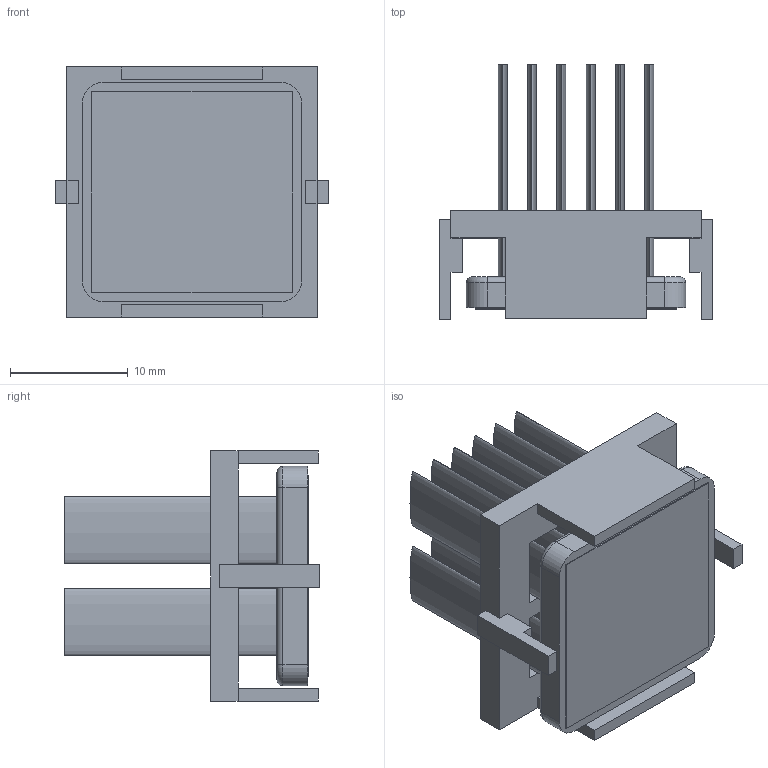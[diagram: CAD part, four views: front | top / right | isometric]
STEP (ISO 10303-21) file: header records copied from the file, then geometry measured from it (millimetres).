
FILE_DESCRIPTION (( 'STEP AP214' ), '1' );
FILE_NAME ('INM19001-21W-2.6O.STEP', '2023-03-02T18:19:05', ( '' ), ( '' ), 'SwSTEP 2.0', 'SolidWorks 2020', '' );
FILE_SCHEMA (( 'AUTOMOTIVE_DESIGN' ));
Length unit declared in the file: millimetre
Products named in the file (1): INM19001-21W-2.6O
Bounding box: 23.2 x 21.6 x 21.2 mm (x, y, z)
Volume: 2500 mm3; surface area: 5356.4 mm2
Topology: 3 solids, 3 shells, 106 faces, 256 edges, 168 vertices
Faces by surface type: plane 70, bspline 24, cylinder 8, torus 4
Entity records: 4330 total; most frequent: CARTESIAN_POINT 843, ORIENTED_EDGE 512, DIRECTION 394, EDGE_CURVE 256, LINE 188, VECTOR 188, VERTEX_POINT 168, EDGE_LOOP 120
